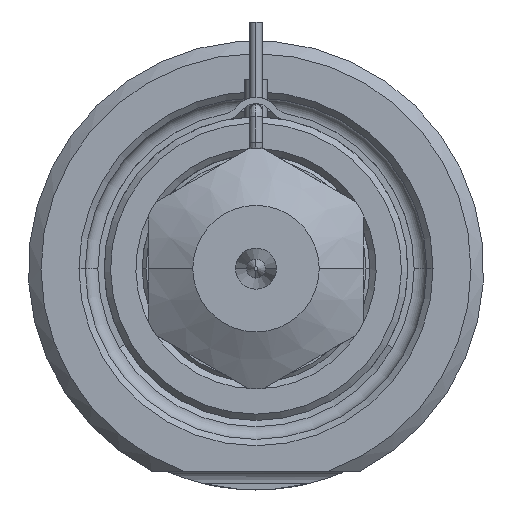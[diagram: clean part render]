
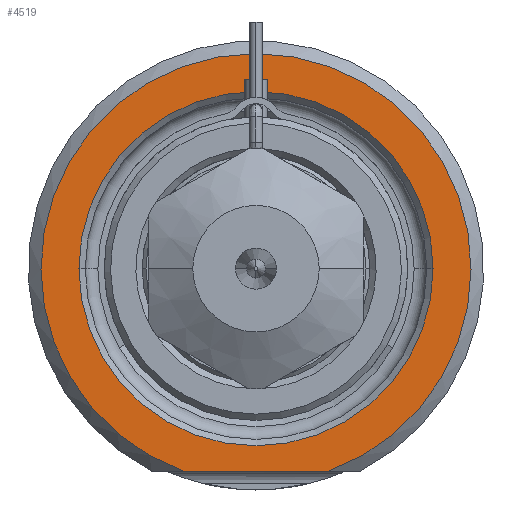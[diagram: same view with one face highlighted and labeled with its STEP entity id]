
A CAD part, front view. The second image highlights one B-rep face of the part: STEP entity #4519.
In plain terms, the highlighted planar face has unit normal (0, -1, 0).
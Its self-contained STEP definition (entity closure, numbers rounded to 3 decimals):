
#748=CARTESIAN_POINT('',(0.,0.,0.));
#749=DIRECTION('',(0.,-1.,0.));
#750=DIRECTION('',(0.338,0.,-0.941));
#751=AXIS2_PLACEMENT_3D('',#748,#749,#750);
#772=DIRECTION('',(1.,0.,0.));
#773=VECTOR('',#772,11.489);
#774=CARTESIAN_POINT('',(-5.745,0.,-16.));
#775=LINE('',#774,#773);
#776=CARTESIAN_POINT('',(0.,0.,0.));
#777=DIRECTION('',(0.,1.,0.));
#778=DIRECTION('',(-1.,0.,0.));
#779=AXIS2_PLACEMENT_3D('',#776,#777,#778);
#781=CARTESIAN_POINT('',(0.,0.,0.));
#782=DIRECTION('',(0.,1.,0.));
#783=DIRECTION('',(1.,0.,0.));
#784=AXIS2_PLACEMENT_3D('',#781,#782,#783);
#3080=CARTESIAN_POINT('',(-14.,0.,0.));
#3081=CARTESIAN_POINT('',(14.,0.,0.));
#3082=VERTEX_POINT('',#3080);
#3083=VERTEX_POINT('',#3081);
#3130=CARTESIAN_POINT('',(-5.745,0.,-16.));
#3131=CARTESIAN_POINT('',(5.745,0.,-16.));
#3132=VERTEX_POINT('',#3130);
#3133=VERTEX_POINT('',#3131);
#4504=CARTESIAN_POINT('',(0.,0.,0.));
#4505=DIRECTION('',(0.,-1.,0.));
#4506=DIRECTION('',(1.,0.,0.));
#4507=AXIS2_PLACEMENT_3D('',#4504,#4505,#4506);
#4508=PLANE('',#4507);
#4509=ORIENTED_EDGE('',*,*,#4436,.F.);
#4510=ORIENTED_EDGE('',*,*,#4496,.F.);
#4511=EDGE_LOOP('',(#4509,#4510));
#4512=FACE_OUTER_BOUND('',#4511,.F.);
#4514=ORIENTED_EDGE('',*,*,#4513,.F.);
#4516=ORIENTED_EDGE('',*,*,#4515,.F.);
#4517=EDGE_LOOP('',(#4514,#4516));
#4518=FACE_BOUND('',#4517,.F.);
#4519=ADVANCED_FACE('',(#4512,#4518),#4508,.T.);
#752=CIRCLE('',#751,17.);
#780=CIRCLE('',#779,14.);
#785=CIRCLE('',#784,14.);
#4436=EDGE_CURVE('',#3132,#3133,#775,.T.);
#4496=EDGE_CURVE('',#3133,#3132,#752,.T.);
#4513=EDGE_CURVE('',#3082,#3083,#780,.T.);
#4515=EDGE_CURVE('',#3083,#3082,#785,.T.);
